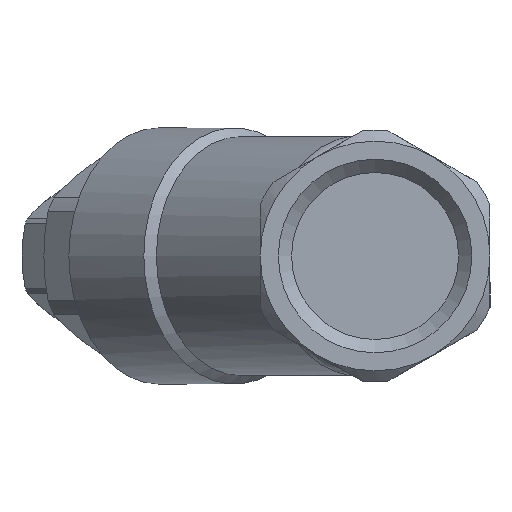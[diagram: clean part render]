
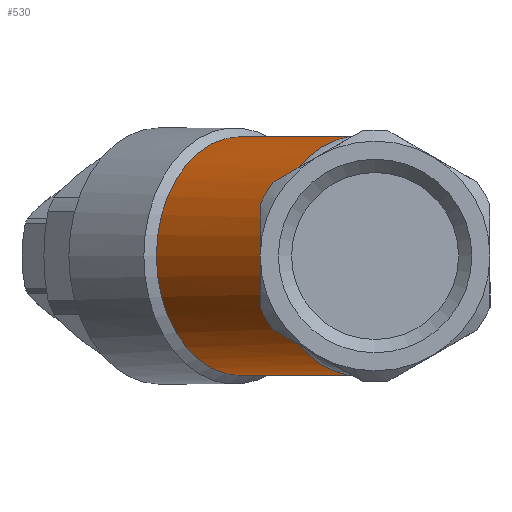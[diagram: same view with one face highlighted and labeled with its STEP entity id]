
A CAD part, left-side view. The second image highlights one B-rep face of the part: STEP entity #530.
In plain terms, the highlighted cylindrical face has radius 13.5 mm (diameter 27 mm), a partial arc.
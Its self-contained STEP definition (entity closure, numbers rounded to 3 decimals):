
#7 = CARTESIAN_POINT ( 'NONE',  ( 10.914, 6.211, -9.982 ) ) ;
#13 = CARTESIAN_POINT ( 'NONE',  ( 8.841, 5.14, -10.598 ) ) ;
#34 = CARTESIAN_POINT ( 'NONE',  ( 7.459, 4.394, -10.931 ) ) ;
#74 = CARTESIAN_POINT ( 'NONE',  ( 5.42, 3.174, -11.321 ) ) ;
#87 = CARTESIAN_POINT ( 'NONE',  ( 4.747, 2.75, -11.433 ) ) ;
#105 = CARTESIAN_POINT ( 'NONE',  ( 14.344, 7.9, 8.698 ) ) ;
#159 = CARTESIAN_POINT ( 'NONE',  ( 3.754, 2.07, -11.568 ) ) ;
#174 = CARTESIAN_POINT ( 'NONE',  ( 3.425, 1.836, -11.608 ) ) ;
#190 = CARTESIAN_POINT ( 'NONE',  ( 2.778, 1.349, -11.675 ) ) ;
#201 = CARTESIAN_POINT ( 'NONE',  ( 2.459, 1.097, -11.702 ) ) ;
#210 = AXIS2_PLACEMENT_3D ( 'NONE', #679, #666, #533 ) ;
#217 = CARTESIAN_POINT ( 'NONE',  ( 1.534, 0.31, -11.758 ) ) ;
#240 = CARTESIAN_POINT ( 'NONE',  ( 0.955, -0.253, -11.764 ) ) ;
#286 = CARTESIAN_POINT ( 'NONE',  ( 0.184, -1.201, -11.693 ) ) ;
#327 = CARTESIAN_POINT ( 'NONE',  ( -0.055, -1.533, -11.655 ) ) ;
#338 = CARTESIAN_POINT ( 'NONE',  ( -0.475, -2.216, -11.544 ) ) ;
#358 = AXIS2_PLACEMENT_3D ( 'NONE', #1738, #1722, #1709 ) ;
#363 = CARTESIAN_POINT ( 'NONE',  ( -0.66, -2.569, -11.472 ) ) ;
#391 = CIRCLE ( 'NONE', #425, 13.5 ) ;
#393 = VERTEX_POINT ( 'NONE', #1531 ) ;
#425 = AXIS2_PLACEMENT_3D ( 'NONE', #1979, #1957, #1914 ) ;
#530 = ADVANCED_FACE ( 'NONE', ( #3626 ), #557, .T. ) ;
#533 = DIRECTION ( 'NONE',  ( -0.707, 0.707, 0. ) ) ;
#556 = CARTESIAN_POINT ( 'NONE',  ( -0.816, -2.934, -11.378 ) ) ;
#557 = CYLINDRICAL_SURFACE ( 'NONE', #2714, 13.5 ) ;
#666 = DIRECTION ( 'NONE',  ( 0.707, 0.707, 0. ) ) ;
#679 = CARTESIAN_POINT ( 'NONE',  ( 7.043, 15.201, 0. ) ) ;
#745 = DIRECTION ( 'NONE',  ( -0.707, 0.707, 0. ) ) ;
#756 = CARTESIAN_POINT ( 'NONE',  ( 26.842, 35., 0. ) ) ;
#816 = DIRECTION ( 'NONE',  ( 0.707, 0.707, 0. ) ) ;
#907 = CARTESIAN_POINT ( 'NONE',  ( 11.605, 6.56, -9.757 ) ) ;
#910 = CARTESIAN_POINT ( 'NONE',  ( -0.816, -2.934, 11.378 ) ) ;
#925 = CARTESIAN_POINT ( 'NONE',  ( 12.987, 7.249, 9.289 ) ) ;
#932 = VERTEX_POINT ( 'NONE', #2010 ) ;
#1300 = CIRCLE ( 'NONE', #358, 13.5 ) ;
#1373 = CARTESIAN_POINT ( 'NONE',  ( -15.5, 11.75, 0. ) ) ;
#1531 = CARTESIAN_POINT ( 'NONE',  ( 14.344, 7.9, 8.698 ) ) ;
#1709 = DIRECTION ( 'NONE',  ( -0.707, 0.707, 0. ) ) ;
#1722 = DIRECTION ( 'NONE',  ( 0.707, 0.707, 0. ) ) ;
#1738 = CARTESIAN_POINT ( 'NONE',  ( -5.954, 2.204, 0. ) ) ;
#1914 = DIRECTION ( 'NONE',  ( -0.707, 0.707, 0. ) ) ;
#1943 = EDGE_LOOP ( 'NONE', ( #2369, #2371, #2373, #2416, #2421 ) ) ;
#1957 = DIRECTION ( 'NONE',  ( 0.707, 0.707, 0. ) ) ;
#1979 = CARTESIAN_POINT ( 'NONE',  ( -5.954, 2.204, 0. ) ) ;
#2010 = CARTESIAN_POINT ( 'NONE',  ( 14.344, 7.9, -8.698 ) ) ;
#2096 = EDGE_CURVE ( 'NONE', #393, #3238, #3411, .T. ) ;
#2099 = B_SPLINE_CURVE_WITH_KNOTS ( 'NONE', 3,
 ( #556, #363, #338, #327, #286, #240, #217, #201, #190, #174, #159, #87, #74, #34, #13, #7, #907, #3377, #3272, #3123 ),
 .UNSPECIFIED., .F., .F.,
 ( 4, 2, 2, 2, 2, 2, 2, 2, 2, 4 ),
 ( 0.058, 0.059, 0.06, 0.062, 0.064, 0.065, 0.067, 0.072, 0.075, 0.077 ),
 .UNSPECIFIED. ) ;
#2265 = EDGE_CURVE ( 'NONE', #3573, #932, #2099, .T. ) ;
#2369 = ORIENTED_EDGE ( 'NONE', *, *, #2096, .F. ) ;
#2371 = ORIENTED_EDGE ( 'NONE', *, *, #2585, .F. ) ;
#2373 = ORIENTED_EDGE ( 'NONE', *, *, #2265, .F. ) ;
#2416 = ORIENTED_EDGE ( 'NONE', *, *, #2525, .T. ) ;
#2421 = ORIENTED_EDGE ( 'NONE', *, *, #2519, .T. ) ;
#2519 = EDGE_CURVE ( 'NONE', #2571, #3238, #391, .T. ) ;
#2525 = EDGE_CURVE ( 'NONE', #3573, #2571, #1300, .T. ) ;
#2571 = VERTEX_POINT ( 'NONE', #1373 ) ;
#2585 = EDGE_CURVE ( 'NONE', #932, #393, #3300, .T. ) ;
#2714 = AXIS2_PLACEMENT_3D ( 'NONE', #756, #816, #745 ) ;
#3123 = CARTESIAN_POINT ( 'NONE',  ( 14.344, 7.9, -8.698 ) ) ;
#3238 = VERTEX_POINT ( 'NONE', #910 ) ;
#3272 = CARTESIAN_POINT ( 'NONE',  ( 13.67, 7.577, -8.992 ) ) ;
#3295 = CARTESIAN_POINT ( 'NONE',  ( -0.816, -2.934, 11.378 ) ) ;
#3300 = CIRCLE ( 'NONE', #210, 13.5 ) ;
#3318 = CARTESIAN_POINT ( 'NONE',  ( -0.661, -2.572, 11.471 ) ) ;
#3325 = CARTESIAN_POINT ( 'NONE',  ( -0.474, -2.212, 11.545 ) ) ;
#3347 = CARTESIAN_POINT ( 'NONE',  ( -0.051, -1.527, 11.655 ) ) ;
#3363 = CARTESIAN_POINT ( 'NONE',  ( 0.184, -1.201, 11.693 ) ) ;
#3377 = CARTESIAN_POINT ( 'NONE',  ( 12.985, 7.244, -9.261 ) ) ;
#3382 = CARTESIAN_POINT ( 'NONE',  ( 0.694, -0.573, 11.74 ) ) ;
#3392 = CARTESIAN_POINT ( 'NONE',  ( -0.816, -2.934, -11.378 ) ) ;
#3411 = B_SPLINE_CURVE_WITH_KNOTS ( 'NONE', 3,
 ( #105, #925, #3521, #3510, #3506, #3489, #3483, #3466, #3457, #3446, #3430, #3421, #3382, #3363, #3347, #3325, #3318, #3295 ),
 .UNSPECIFIED., .F., .F.,
 ( 4, 2, 2, 2, 2, 2, 2, 2, 4 ),
 ( 0.007, 0.012, 0.017, 0.019, 0.022, 0.023, 0.024, 0.025, 0.027 ),
 .UNSPECIFIED. ) ;
#3421 = CARTESIAN_POINT ( 'NONE',  ( 0.97, -0.272, 11.75 ) ) ;
#3430 = CARTESIAN_POINT ( 'NONE',  ( 1.547, 0.303, 11.75 ) ) ;
#3446 = CARTESIAN_POINT ( 'NONE',  ( 1.846, 0.576, 11.739 ) ) ;
#3457 = CARTESIAN_POINT ( 'NONE',  ( 2.77, 1.361, 11.683 ) ) ;
#3466 = CARTESIAN_POINT ( 'NONE',  ( 3.419, 1.842, 11.614 ) ) ;
#3483 = CARTESIAN_POINT ( 'NONE',  ( 4.754, 2.754, 11.432 ) ) ;
#3489 = CARTESIAN_POINT ( 'NONE',  ( 5.432, 3.181, 11.319 ) ) ;
#3506 = CARTESIAN_POINT ( 'NONE',  ( 7.478, 4.404, 10.927 ) ) ;
#3510 = CARTESIAN_POINT ( 'NONE',  ( 8.859, 5.149, 10.593 ) ) ;
#3521 = CARTESIAN_POINT ( 'NONE',  ( 11.613, 6.573, 9.774 ) ) ;
#3573 = VERTEX_POINT ( 'NONE', #3392 ) ;
#3626 = FACE_OUTER_BOUND ( 'NONE', #1943, .T. ) ;
